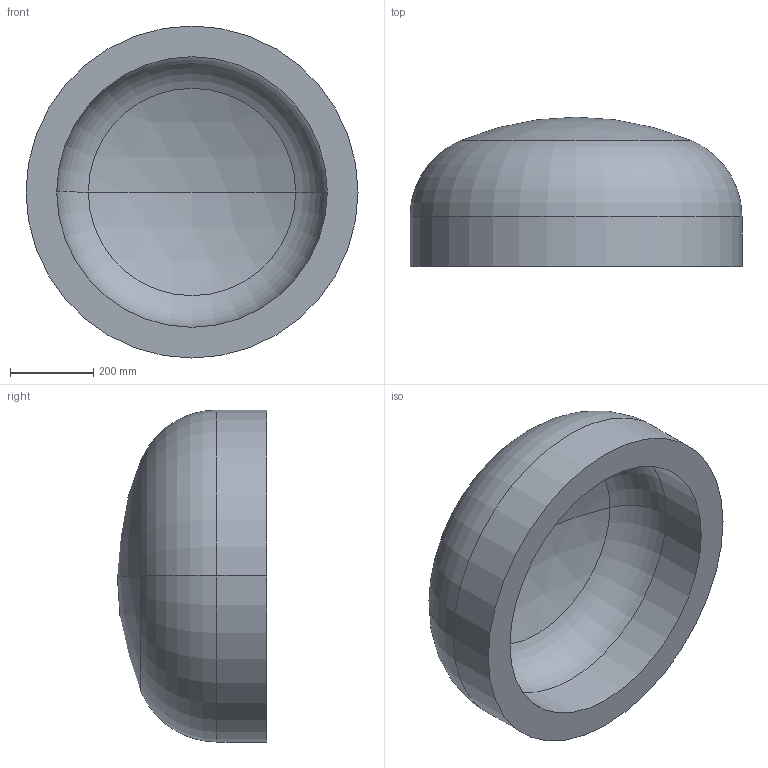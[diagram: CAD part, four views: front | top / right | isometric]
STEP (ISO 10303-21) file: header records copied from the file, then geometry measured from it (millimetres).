
FILE_DESCRIPTION (( 'STEP AP203' ), '1' );
FILE_NAME ('DIN 28013 Korbbogenform_-_Boden DIN 28013 - 800 x 120 - I - s=74.step', '2016-07-01T08:20:34', ( '' ), ( '' ), 'SwSTEP 2.0', 'SolidWorks 2013', '' );
FILE_SCHEMA (( 'CONFIG_CONTROL_DESIGN' ));
Length unit declared in the file: millimetre
Products named in the file (1): DIN 28013 Korbbogenform_-_Boden DIN 28013 - 800 x 120 - I - s=74
Bounding box: 800 x 359.84 x 800 mm (x, y, z)
Volume: 66312426.8 mm3; surface area: 1972475.3 mm2
Topology: 1 solids, 1 shells, 13 faces, 24 edges, 14 vertices
Faces by surface type: torus 4, cylinder 4, sphere 4, plane 1
Entity records: 407 total; most frequent: DIRECTION 72, CARTESIAN_POINT 52, ORIENTED_EDGE 48, AXIS2_PLACEMENT_3D 34, EDGE_CURVE 24, CIRCLE 20, EDGE_LOOP 14, VERTEX_POINT 14
